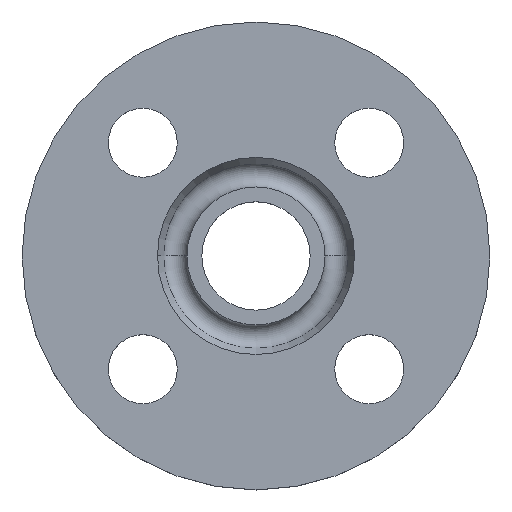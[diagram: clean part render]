
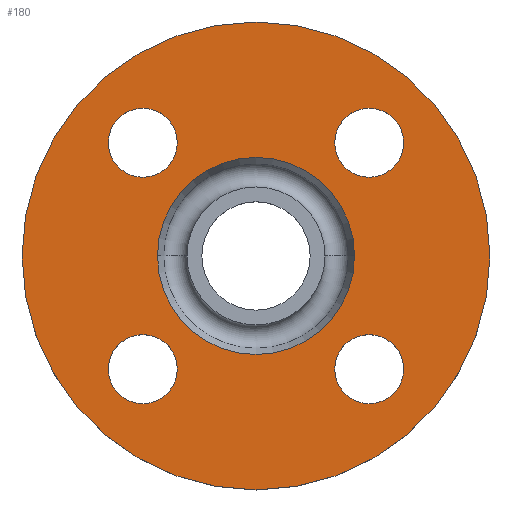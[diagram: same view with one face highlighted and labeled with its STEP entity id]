
A CAD part, top view. The second image highlights one B-rep face of the part: STEP entity #180.
In plain terms, the highlighted planar face has unit normal (0, 0, 1).
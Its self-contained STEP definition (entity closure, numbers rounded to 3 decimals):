
#2 = EDGE_CURVE ( 'NONE', #515, #355, #270, .T. ) ;
#7 = EDGE_CURVE ( 'NONE', #492, #525, #543, .T. ) ;
#10 = EDGE_CURVE ( 'NONE', #366, #344, #66, .T. ) ;
#21 = CIRCLE ( 'NONE', #406, 7. ) ;
#24 = AXIS2_PLACEMENT_3D ( 'NONE', #585, #586, #587 ) ;
#31 = CIRCLE ( 'NONE', #24, 7. ) ;
#32 = AXIS2_PLACEMENT_3D ( 'NONE', #627, #628, #629 ) ;
#56 = EDGE_CURVE ( 'NONE', #367, #528, #31, .T. ) ;
#64 = AXIS2_PLACEMENT_3D ( 'NONE', #659, #660, #661 ) ;
#65 = CIRCLE ( 'NONE', #32, 47.5 ) ;
#66 = CIRCLE ( 'NONE', #167, 20. ) ;
#75 = DIRECTION ( 'NONE',  ( 1., 0., 0. ) ) ;
#83 = EDGE_CURVE ( 'NONE', #525, #492, #290, .T. ) ;
#104 = AXIS2_PLACEMENT_3D ( 'NONE', #620, #621, #622 ) ;
#115 = EDGE_CURVE ( 'NONE', #361, #520, #65, .T. ) ;
#118 = DIRECTION ( 'NONE',  ( -1., 0., 0. ) ) ;
#128 = EDGE_CURVE ( 'NONE', #355, #515, #172, .T. ) ;
#138 = CIRCLE ( 'NONE', #341, 47.5 ) ;
#142 = AXIS2_PLACEMENT_3D ( 'NONE', #315, #319, #75 ) ;
#152 = CARTESIAN_POINT ( 'NONE',  ( 22.981, -22.981, -2. ) ) ;
#154 = DIRECTION ( 'NONE',  ( 0., 0., -1. ) ) ;
#155 = DIRECTION ( 'NONE',  ( 1., 0., 0. ) ) ;
#158 = CIRCLE ( 'NONE', #142, 7. ) ;
#159 = CARTESIAN_POINT ( 'NONE',  ( -20., 0., -2. ) ) ;
#162 = AXIS2_PLACEMENT_3D ( 'NONE', #276, #279, #280 ) ;
#164 = CIRCLE ( 'NONE', #162, 20. ) ;
#166 = AXIS2_PLACEMENT_3D ( 'NONE', #630, #631, #632 ) ;
#167 = AXIS2_PLACEMENT_3D ( 'NONE', #550, #551, #552 ) ;
#169 = DIRECTION ( 'NONE',  ( 0., 0., -1. ) ) ;
#171 = EDGE_CURVE ( 'NONE', #528, #367, #211, .T. ) ;
#172 = CIRCLE ( 'NONE', #166, 7. ) ;
#180 = ADVANCED_FACE ( 'NONE', ( #651, #652, #653, #654, #655, #657 ), #658, .T. ) ;
#183 = CARTESIAN_POINT ( 'NONE',  ( -15.981, 22.981, -2. ) ) ;
#188 = CARTESIAN_POINT ( 'NONE',  ( 47.5, 0., -2. ) ) ;
#198 = CARTESIAN_POINT ( 'NONE',  ( 20., 0., -2. ) ) ;
#200 = CARTESIAN_POINT ( 'NONE',  ( -29.981, -22.981, -2. ) ) ;
#211 = CIRCLE ( 'NONE', #295, 7. ) ;
#269 = AXIS2_PLACEMENT_3D ( 'NONE', #532, #533, #534 ) ;
#270 = CIRCLE ( 'NONE', #269, 7. ) ;
#276 = CARTESIAN_POINT ( 'NONE',  ( 0., 0., -2. ) ) ;
#279 = DIRECTION ( 'NONE',  ( 0., 0., -1. ) ) ;
#280 = DIRECTION ( 'NONE',  ( -1., 0., 0. ) ) ;
#283 = CARTESIAN_POINT ( 'NONE',  ( 15.981, -22.981, -2. ) ) ;
#284 = CARTESIAN_POINT ( 'NONE',  ( 15.981, 22.981, -2. ) ) ;
#290 = CIRCLE ( 'NONE', #104, 7. ) ;
#295 = AXIS2_PLACEMENT_3D ( 'NONE', #648, #649, #650 ) ;
#309 = CARTESIAN_POINT ( 'NONE',  ( 29.981, 22.981, -2. ) ) ;
#315 = CARTESIAN_POINT ( 'NONE',  ( 22.981, -22.981, -2. ) ) ;
#316 = CARTESIAN_POINT ( 'NONE',  ( -15.981, -22.981, -2. ) ) ;
#319 = DIRECTION ( 'NONE',  ( 0., 0., -1. ) ) ;
#321 = CARTESIAN_POINT ( 'NONE',  ( 29.981, -22.981, -2. ) ) ;
#325 = CARTESIAN_POINT ( 'NONE',  ( 0., 0., -2. ) ) ;
#329 = CARTESIAN_POINT ( 'NONE',  ( -29.981, 22.981, -2. ) ) ;
#331 = CARTESIAN_POINT ( 'NONE',  ( -47.5, 0., -2. ) ) ;
#336 = EDGE_CURVE ( 'NONE', #490, #513, #21, .T. ) ;
#341 = AXIS2_PLACEMENT_3D ( 'NONE', #325, #169, #118 ) ;
#343 = EDGE_LOOP ( 'NONE', ( #431, #432 ) ) ;
#344 = VERTEX_POINT ( 'NONE', #159 ) ;
#355 = VERTEX_POINT ( 'NONE', #183 ) ;
#361 = VERTEX_POINT ( 'NONE', #188 ) ;
#363 = EDGE_LOOP ( 'NONE', ( #440, #441 ) ) ;
#366 = VERTEX_POINT ( 'NONE', #198 ) ;
#367 = VERTEX_POINT ( 'NONE', #200 ) ;
#406 = AXIS2_PLACEMENT_3D ( 'NONE', #152, #154, #155 ) ;
#425 = ORIENTED_EDGE ( 'NONE', *, *, #530, .T. ) ;
#427 = ORIENTED_EDGE ( 'NONE', *, *, #336, .T. ) ;
#429 = ORIENTED_EDGE ( 'NONE', *, *, #171, .T. ) ;
#430 = ORIENTED_EDGE ( 'NONE', *, *, #56, .T. ) ;
#431 = ORIENTED_EDGE ( 'NONE', *, *, #128, .T. ) ;
#432 = ORIENTED_EDGE ( 'NONE', *, *, #2, .T. ) ;
#433 = ORIENTED_EDGE ( 'NONE', *, *, #83, .T. ) ;
#435 = ORIENTED_EDGE ( 'NONE', *, *, #7, .T. ) ;
#437 = ORIENTED_EDGE ( 'NONE', *, *, #10, .T. ) ;
#438 = ORIENTED_EDGE ( 'NONE', *, *, #488, .T. ) ;
#440 = ORIENTED_EDGE ( 'NONE', *, *, #115, .F. ) ;
#441 = ORIENTED_EDGE ( 'NONE', *, *, #562, .F. ) ;
#488 = EDGE_CURVE ( 'NONE', #344, #366, #164, .T. ) ;
#490 = VERTEX_POINT ( 'NONE', #283 ) ;
#492 = VERTEX_POINT ( 'NONE', #284 ) ;
#493 = EDGE_LOOP ( 'NONE', ( #425, #427 ) ) ;
#513 = VERTEX_POINT ( 'NONE', #321 ) ;
#515 = VERTEX_POINT ( 'NONE', #329 ) ;
#519 = EDGE_LOOP ( 'NONE', ( #429, #430 ) ) ;
#520 = VERTEX_POINT ( 'NONE', #331 ) ;
#525 = VERTEX_POINT ( 'NONE', #309 ) ;
#527 = EDGE_LOOP ( 'NONE', ( #433, #435 ) ) ;
#528 = VERTEX_POINT ( 'NONE', #316 ) ;
#530 = EDGE_CURVE ( 'NONE', #513, #490, #158, .T. ) ;
#531 = EDGE_LOOP ( 'NONE', ( #437, #438 ) ) ;
#532 = CARTESIAN_POINT ( 'NONE',  ( -22.981, 22.981, -2. ) ) ;
#533 = DIRECTION ( 'NONE',  ( 0., 0., -1. ) ) ;
#534 = DIRECTION ( 'NONE',  ( 1., 0., 0. ) ) ;
#538 = CARTESIAN_POINT ( 'NONE',  ( 22.981, 22.981, -2. ) ) ;
#539 = DIRECTION ( 'NONE',  ( 0., 0., -1. ) ) ;
#540 = DIRECTION ( 'NONE',  ( 1., 0., 0. ) ) ;
#543 = CIRCLE ( 'NONE', #548, 7. ) ;
#548 = AXIS2_PLACEMENT_3D ( 'NONE', #538, #539, #540 ) ;
#550 = CARTESIAN_POINT ( 'NONE',  ( 0., 0., -2. ) ) ;
#551 = DIRECTION ( 'NONE',  ( 0., 0., -1. ) ) ;
#552 = DIRECTION ( 'NONE',  ( -1., 0., 0. ) ) ;
#562 = EDGE_CURVE ( 'NONE', #520, #361, #138, .T. ) ;
#585 = CARTESIAN_POINT ( 'NONE',  ( -22.981, -22.981, -2. ) ) ;
#586 = DIRECTION ( 'NONE',  ( 0., 0., -1. ) ) ;
#587 = DIRECTION ( 'NONE',  ( 1., 0., 0. ) ) ;
#620 = CARTESIAN_POINT ( 'NONE',  ( 22.981, 22.981, -2. ) ) ;
#621 = DIRECTION ( 'NONE',  ( 0., 0., -1. ) ) ;
#622 = DIRECTION ( 'NONE',  ( 1., 0., 0. ) ) ;
#627 = CARTESIAN_POINT ( 'NONE',  ( 0., 0., -2. ) ) ;
#628 = DIRECTION ( 'NONE',  ( 0., 0., -1. ) ) ;
#629 = DIRECTION ( 'NONE',  ( -1., 0., 0. ) ) ;
#630 = CARTESIAN_POINT ( 'NONE',  ( -22.981, 22.981, -2. ) ) ;
#631 = DIRECTION ( 'NONE',  ( 0., 0., -1. ) ) ;
#632 = DIRECTION ( 'NONE',  ( 1., 0., 0. ) ) ;
#648 = CARTESIAN_POINT ( 'NONE',  ( -22.981, -22.981, -2. ) ) ;
#649 = DIRECTION ( 'NONE',  ( 0., 0., -1. ) ) ;
#650 = DIRECTION ( 'NONE',  ( 1., 0., 0. ) ) ;
#651 = FACE_BOUND ( 'NONE', #493, .T. ) ;
#652 = FACE_BOUND ( 'NONE', #519, .T. ) ;
#653 = FACE_BOUND ( 'NONE', #343, .T. ) ;
#654 = FACE_BOUND ( 'NONE', #527, .T. ) ;
#655 = FACE_BOUND ( 'NONE', #531, .T. ) ;
#657 = FACE_OUTER_BOUND ( 'NONE', #363, .T. ) ;
#658 = PLANE ( 'NONE',  #64 ) ;
#659 = CARTESIAN_POINT ( 'NONE',  ( 47.5, 0., -2. ) ) ;
#660 = DIRECTION ( 'NONE',  ( 0., 0., 1. ) ) ;
#661 = DIRECTION ( 'NONE',  ( 1., 0., 0. ) ) ;
